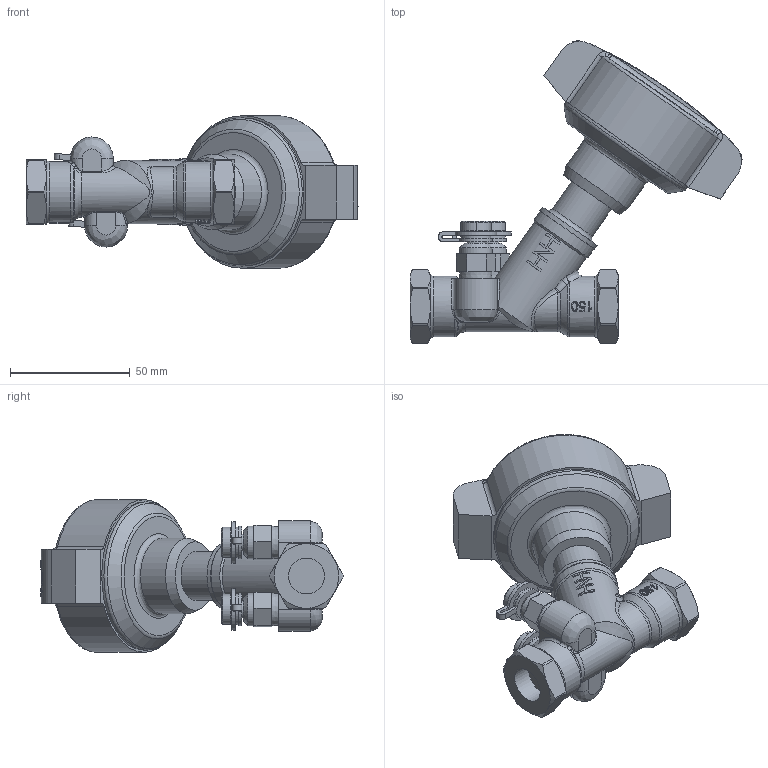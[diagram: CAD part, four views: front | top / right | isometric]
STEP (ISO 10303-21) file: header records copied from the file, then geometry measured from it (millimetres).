
FILE_DESCRIPTION((''),'2;1');
FILE_NAME('P:\Fastrack\53972_CRANE 3D\Workspace\HATTERSLEY\Fig-1732_1-2in\Fig-1732_1-2in.stp','2011-03-07T11:42:50',('btaylor'),(''),'Autodesk Inventor 2008','Autodesk Inventor 2008','');
FILE_SCHEMA(('AUTOMOTIVE_DESIGN { 1 0 10303 214 1 1 1 1 }'));
Length unit declared in the file: millimetre
Products named in the file (1): Fig-1732_1-2in
Bounding box: 138.78 x 126.41 x 63.85 mm (x, y, z)
Volume: 206103.7 mm3; surface area: 33287.6 mm2
Topology: 1 solids, 1 shells, 679 faces, 1747 edges, 1136 vertices
Faces by surface type: plane 323, bspline 218, cylinder 106, cone 26, torus 6
Full cylindrical faces by diameter (mm): 7.4 x2, 11 x2, 12.7 x2, 13.7 x2, 20.3 x1, 25.4 x2, 26.4 x1, 27.5 x1, 28 x1, 31.5 x1, 61.958 x1
Entity records: 63808 total; most frequent: CARTESIAN_POINT 48278, ORIENTED_EDGE 3398, DIRECTION 2347, EDGE_CURVE 1699, VERTEX_POINT 1123, VECTOR 837, LINE 837, EDGE_LOOP 793
